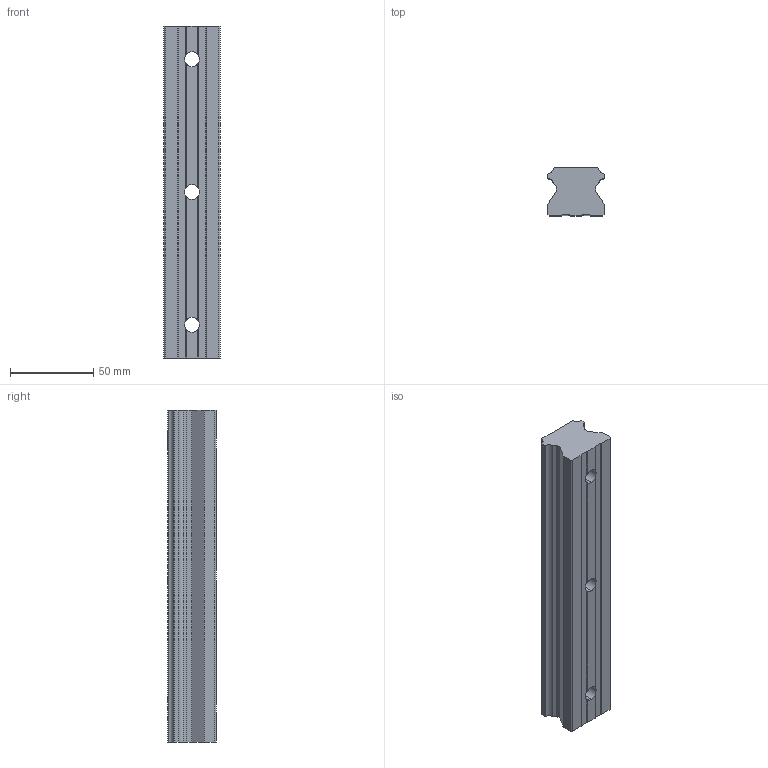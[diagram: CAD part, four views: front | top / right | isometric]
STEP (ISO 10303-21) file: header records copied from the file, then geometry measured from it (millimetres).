
FILE_DESCRIPTION (( 'STEP AP203' ), '1' );
FILE_NAME ('HSR35_Rail_SW2020.STEP', '2020-06-02T17:58:47', ( '' ), ( '' ), 'SwSTEP 2.0', 'SolidWorks 2020', '' );
FILE_SCHEMA (( 'CONFIG_CONTROL_DESIGN' ));
Length unit declared in the file: millimetre
Products named in the file (1): HSR35_Rail_SW2020
Bounding box: 34 x 29 x 200 mm (x, y, z)
Volume: 163147.8 mm3; surface area: 30292.7 mm2
Topology: 1 solids, 1 shells, 58 faces, 168 edges, 112 vertices
Faces by surface type: plane 42, cylinder 16
Entity records: 2005 total; most frequent: CARTESIAN_POINT 375, ORIENTED_EDGE 336, DIRECTION 318, EDGE_CURVE 168, VECTOR 112, LINE 112, VERTEX_POINT 112, AXIS2_PLACEMENT_3D 103
